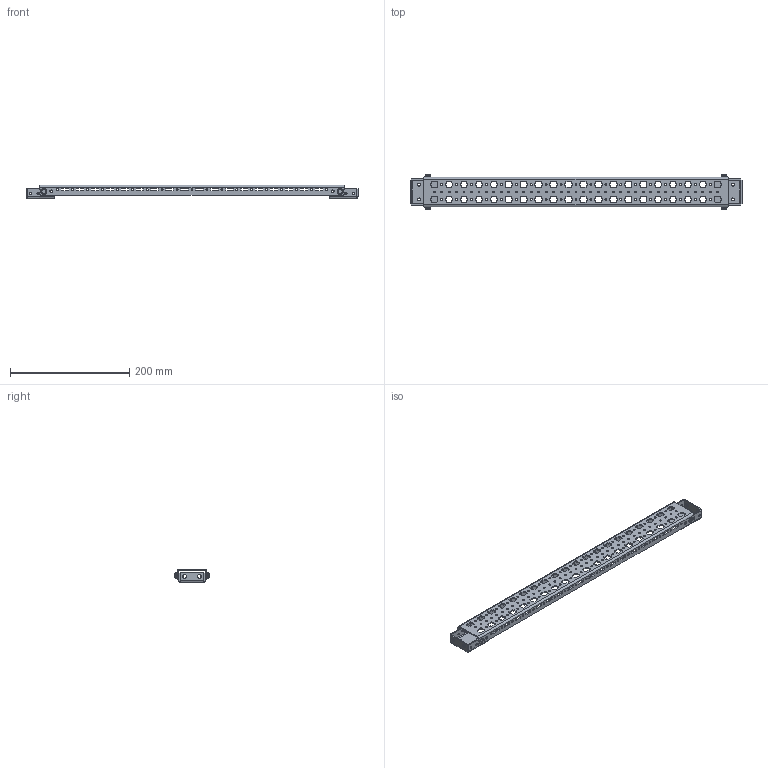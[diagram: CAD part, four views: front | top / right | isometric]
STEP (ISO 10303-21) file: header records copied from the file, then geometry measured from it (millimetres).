
FILE_DESCRIPTION (( 'STEP AP203' ), '1' );
FILE_NAME ('MRD 60.06 L Ðåéêà ìîíòàæíàÿ (äåðæàòåëè âûäâèíóòû).STEP', '2025-05-15T12:13:24', ( '' ), ( '' ), 'SwSTEP 2.0', 'SolidWorks 2019', '' );
FILE_SCHEMA (( 'CONFIG_CONTROL_DESIGN' ));
Length unit declared in the file: millimetre
Products named in the file (4): 妈眚 襦祛磬疱玎栝_4,8x11; MRD X.06.002 L Êðîíøòåéí ðåéêè; MRD X.06.001 L Ðåéêà ìîíòàæíàÿ_MRD 60.06.001 L; MRD 60.06 L Ðåéêà ìîíòàæíàÿ (äåðæàòåëè âûäâèíóòû)
Assembly tree (7 placements, depth 2):
  MRD 60.06 L Ðåéêà ìîíòàæíàÿ (äåðæàòåëè âûäâèíóòû)
    MRD X.06.001 L Ðåéêà ìîíòàæíàÿ_MRD 60.06.001 L
    MRD X.06.002 L Êðîíøòåéí ðåéêè  x2
    妈眚 襦祛磬疱玎栝_4,8x11  x4
Bounding box: 556 x 58 x 23 mm (x, y, z)
Volume: 80770.9 mm3; surface area: 93275.5 mm2
Topology: 7 solids, 7 shells, 1812 faces, 5310 edges, 3512 vertices
Faces by surface type: cylinder 1014, plane 754, bspline 24, cone 20
Entity records: 57582 total; most frequent: CARTESIAN_POINT 10826, DIRECTION 9897, ORIENTED_EDGE 9680, EDGE_CURVE 4840, AXIS2_PLACEMENT_3D 3478, VERTEX_POINT 3213, LINE 2941, VECTOR 2941
